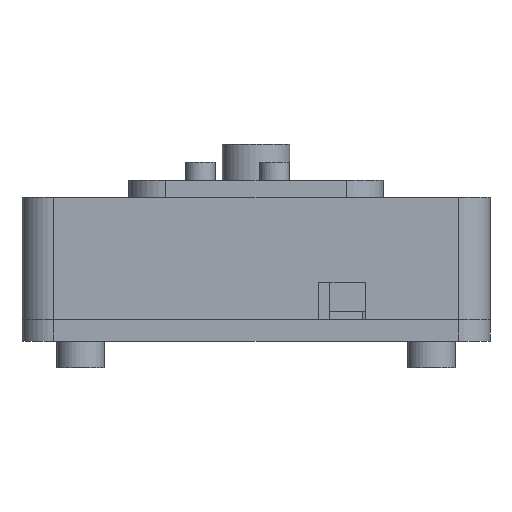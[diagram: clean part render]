
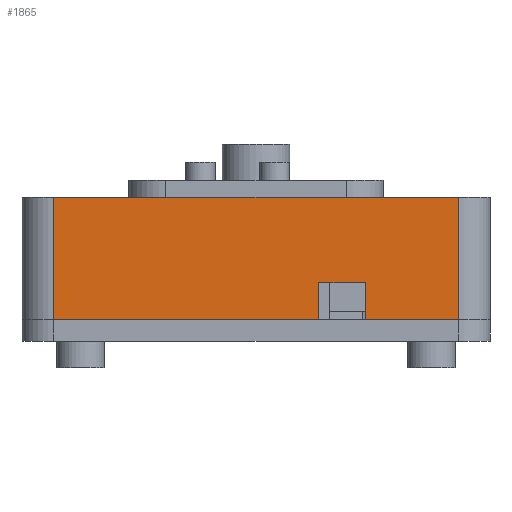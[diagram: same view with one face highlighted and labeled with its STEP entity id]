
A CAD part, front view. The second image highlights one B-rep face of the part: STEP entity #1865.
In plain terms, the highlighted planar face has unit normal (0, -1, 0).
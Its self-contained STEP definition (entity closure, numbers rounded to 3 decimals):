
#102 = PLANE('',#103);
#103 = AXIS2_PLACEMENT_3D('',#104,#105,#106);
#104 = CARTESIAN_POINT('',(-22.,-26.,-0.5));
#105 = DIRECTION('',(0.,0.,1.));
#106 = DIRECTION('',(1.,0.,0.));
#130 = CYLINDRICAL_SURFACE('',#131,3.);
#131 = AXIS2_PLACEMENT_3D('',#132,#133,#134);
#132 = CARTESIAN_POINT('',(-19.,-23.,-12.));
#133 = DIRECTION('',(0.,0.,1.));
#134 = DIRECTION('',(-1.,-0.,0.));
#158 = PLANE('',#159);
#159 = AXIS2_PLACEMENT_3D('',#160,#161,#162);
#160 = CARTESIAN_POINT('',(-22.,-26.,-12.));
#161 = DIRECTION('',(0.,0.,1.));
#162 = DIRECTION('',(1.,0.,0.));
#201 = VERTEX_POINT('',#202);
#202 = CARTESIAN_POINT('',(-19.,-26.,-0.5));
#224 = EDGE_CURVE('',#201,#225,#227,.T.);
#225 = VERTEX_POINT('',#226);
#226 = CARTESIAN_POINT('',(19.,-26.,-0.5));
#227 = SURFACE_CURVE('',#228,(#232,#239),.PCURVE_S1.);
#228 = LINE('',#229,#230);
#229 = CARTESIAN_POINT('',(-22.,-26.,-0.5));
#230 = VECTOR('',#231,1.);
#231 = DIRECTION('',(1.,0.,0.));
#232 = PCURVE('',#102,#233);
#233 = DEFINITIONAL_REPRESENTATION('',(#234),#238);
#234 = LINE('',#235,#236);
#235 = CARTESIAN_POINT('',(0.,0.));
#236 = VECTOR('',#237,1.);
#237 = DIRECTION('',(1.,0.));
#238 = ( GEOMETRIC_REPRESENTATION_CONTEXT(2) 
PARAMETRIC_REPRESENTATION_CONTEXT() REPRESENTATION_CONTEXT('2D SPACE',''
  ) );
#239 = PCURVE('',#240,#245);
#240 = PLANE('',#241);
#241 = AXIS2_PLACEMENT_3D('',#242,#243,#244);
#242 = CARTESIAN_POINT('',(-22.,-26.,-12.));
#243 = DIRECTION('',(0.,1.,0.));
#244 = DIRECTION('',(0.,0.,1.));
#245 = DEFINITIONAL_REPRESENTATION('',(#246),#250);
#246 = LINE('',#247,#248);
#247 = CARTESIAN_POINT('',(11.5,0.));
#248 = VECTOR('',#249,1.);
#249 = DIRECTION('',(0.,1.));
#250 = ( GEOMETRIC_REPRESENTATION_CONTEXT(2) 
PARAMETRIC_REPRESENTATION_CONTEXT() REPRESENTATION_CONTEXT('2D SPACE',''
  ) );
#273 = CYLINDRICAL_SURFACE('',#274,3.);
#274 = AXIS2_PLACEMENT_3D('',#275,#276,#277);
#275 = CARTESIAN_POINT('',(19.,-23.,-12.));
#276 = DIRECTION('',(0.,0.,1.));
#277 = DIRECTION('',(1.,0.,-0.));
#1076 = VERTEX_POINT('',#1077);
#1077 = CARTESIAN_POINT('',(-19.,-26.,-12.));
#1099 = EDGE_CURVE('',#1076,#201,#1100,.T.);
#1100 = SURFACE_CURVE('',#1101,(#1105,#1112),.PCURVE_S1.);
#1101 = LINE('',#1102,#1103);
#1102 = CARTESIAN_POINT('',(-19.,-26.,-12.));
#1103 = VECTOR('',#1104,1.);
#1104 = DIRECTION('',(0.,0.,1.));
#1105 = PCURVE('',#130,#1106);
#1106 = DEFINITIONAL_REPRESENTATION('',(#1107),#1111);
#1107 = LINE('',#1108,#1109);
#1108 = CARTESIAN_POINT('',(1.571,0.));
#1109 = VECTOR('',#1110,1.);
#1110 = DIRECTION('',(0.,1.));
#1111 = ( GEOMETRIC_REPRESENTATION_CONTEXT(2) 
PARAMETRIC_REPRESENTATION_CONTEXT() REPRESENTATION_CONTEXT('2D SPACE',''
  ) );
#1112 = PCURVE('',#240,#1113);
#1113 = DEFINITIONAL_REPRESENTATION('',(#1114),#1118);
#1114 = LINE('',#1115,#1116);
#1115 = CARTESIAN_POINT('',(0.,3.));
#1116 = VECTOR('',#1117,1.);
#1117 = DIRECTION('',(1.,0.));
#1118 = ( GEOMETRIC_REPRESENTATION_CONTEXT(2) 
PARAMETRIC_REPRESENTATION_CONTEXT() REPRESENTATION_CONTEXT('2D SPACE',''
  ) );
#1181 = EDGE_CURVE('',#1076,#1182,#1184,.T.);
#1182 = VERTEX_POINT('',#1183);
#1183 = CARTESIAN_POINT('',(5.9,-26.,-12.));
#1184 = SURFACE_CURVE('',#1185,(#1189,#1196),.PCURVE_S1.);
#1185 = LINE('',#1186,#1187);
#1186 = CARTESIAN_POINT('',(-22.,-26.,-12.));
#1187 = VECTOR('',#1188,1.);
#1188 = DIRECTION('',(1.,0.,0.));
#1189 = PCURVE('',#158,#1190);
#1190 = DEFINITIONAL_REPRESENTATION('',(#1191),#1195);
#1191 = LINE('',#1192,#1193);
#1192 = CARTESIAN_POINT('',(0.,0.));
#1193 = VECTOR('',#1194,1.);
#1194 = DIRECTION('',(1.,0.));
#1195 = ( GEOMETRIC_REPRESENTATION_CONTEXT(2) 
PARAMETRIC_REPRESENTATION_CONTEXT() REPRESENTATION_CONTEXT('2D SPACE',''
  ) );
#1196 = PCURVE('',#240,#1197);
#1197 = DEFINITIONAL_REPRESENTATION('',(#1198),#1202);
#1198 = LINE('',#1199,#1200);
#1199 = CARTESIAN_POINT('',(0.,0.));
#1200 = VECTOR('',#1201,1.);
#1201 = DIRECTION('',(0.,1.));
#1202 = ( GEOMETRIC_REPRESENTATION_CONTEXT(2) 
PARAMETRIC_REPRESENTATION_CONTEXT() REPRESENTATION_CONTEXT('2D SPACE',''
  ) );
#1219 = PLANE('',#1220);
#1220 = AXIS2_PLACEMENT_3D('',#1221,#1222,#1223);
#1221 = CARTESIAN_POINT('',(5.9,-28.,-12.1));
#1222 = DIRECTION('',(1.,0.,0.));
#1223 = DIRECTION('',(0.,0.,1.));
#1472 = VERTEX_POINT('',#1473);
#1473 = CARTESIAN_POINT('',(10.3,-26.,-12.));
#1486 = PLANE('',#1487);
#1487 = AXIS2_PLACEMENT_3D('',#1488,#1489,#1490);
#1488 = CARTESIAN_POINT('',(10.3,-28.,-12.1));
#1489 = DIRECTION('',(1.,0.,0.));
#1490 = DIRECTION('',(0.,0.,1.));
#1497 = EDGE_CURVE('',#1472,#1498,#1500,.T.);
#1498 = VERTEX_POINT('',#1499);
#1499 = CARTESIAN_POINT('',(19.,-26.,-12.));
#1500 = SURFACE_CURVE('',#1501,(#1505,#1512),.PCURVE_S1.);
#1501 = LINE('',#1502,#1503);
#1502 = CARTESIAN_POINT('',(-22.,-26.,-12.));
#1503 = VECTOR('',#1504,1.);
#1504 = DIRECTION('',(1.,0.,0.));
#1505 = PCURVE('',#158,#1506);
#1506 = DEFINITIONAL_REPRESENTATION('',(#1507),#1511);
#1507 = LINE('',#1508,#1509);
#1508 = CARTESIAN_POINT('',(0.,0.));
#1509 = VECTOR('',#1510,1.);
#1510 = DIRECTION('',(1.,0.));
#1511 = ( GEOMETRIC_REPRESENTATION_CONTEXT(2) 
PARAMETRIC_REPRESENTATION_CONTEXT() REPRESENTATION_CONTEXT('2D SPACE',''
  ) );
#1512 = PCURVE('',#240,#1513);
#1513 = DEFINITIONAL_REPRESENTATION('',(#1514),#1518);
#1514 = LINE('',#1515,#1516);
#1515 = CARTESIAN_POINT('',(0.,0.));
#1516 = VECTOR('',#1517,1.);
#1517 = DIRECTION('',(0.,1.));
#1518 = ( GEOMETRIC_REPRESENTATION_CONTEXT(2) 
PARAMETRIC_REPRESENTATION_CONTEXT() REPRESENTATION_CONTEXT('2D SPACE',''
  ) );
#1865 = ADVANCED_FACE('',(#1866),#240,.F.);
#1866 = FACE_BOUND('',#1867,.F.);
#1867 = EDGE_LOOP('',(#1868,#1869,#1870,#1871,#1892,#1893,#1914,#1940));
#1868 = ORIENTED_EDGE('',*,*,#1181,.F.);
#1869 = ORIENTED_EDGE('',*,*,#1099,.T.);
#1870 = ORIENTED_EDGE('',*,*,#224,.T.);
#1871 = ORIENTED_EDGE('',*,*,#1872,.F.);
#1872 = EDGE_CURVE('',#1498,#225,#1873,.T.);
#1873 = SURFACE_CURVE('',#1874,(#1878,#1885),.PCURVE_S1.);
#1874 = LINE('',#1875,#1876);
#1875 = CARTESIAN_POINT('',(19.,-26.,-12.));
#1876 = VECTOR('',#1877,1.);
#1877 = DIRECTION('',(0.,0.,1.));
#1878 = PCURVE('',#240,#1879);
#1879 = DEFINITIONAL_REPRESENTATION('',(#1880),#1884);
#1880 = LINE('',#1881,#1882);
#1881 = CARTESIAN_POINT('',(0.,41.));
#1882 = VECTOR('',#1883,1.);
#1883 = DIRECTION('',(1.,0.));
#1884 = ( GEOMETRIC_REPRESENTATION_CONTEXT(2) 
PARAMETRIC_REPRESENTATION_CONTEXT() REPRESENTATION_CONTEXT('2D SPACE',''
  ) );
#1885 = PCURVE('',#273,#1886);
#1886 = DEFINITIONAL_REPRESENTATION('',(#1887),#1891);
#1887 = LINE('',#1888,#1889);
#1888 = CARTESIAN_POINT('',(-1.571,0.));
#1889 = VECTOR('',#1890,1.);
#1890 = DIRECTION('',(-0.,1.));
#1891 = ( GEOMETRIC_REPRESENTATION_CONTEXT(2) 
PARAMETRIC_REPRESENTATION_CONTEXT() REPRESENTATION_CONTEXT('2D SPACE',''
  ) );
#1892 = ORIENTED_EDGE('',*,*,#1497,.F.);
#1893 = ORIENTED_EDGE('',*,*,#1894,.F.);
#1894 = EDGE_CURVE('',#1895,#1472,#1897,.T.);
#1895 = VERTEX_POINT('',#1896);
#1896 = CARTESIAN_POINT('',(10.3,-26.,-8.5));
#1897 = SURFACE_CURVE('',#1898,(#1902,#1908),.PCURVE_S1.);
#1898 = LINE('',#1899,#1900);
#1899 = CARTESIAN_POINT('',(10.3,-26.,-12.05));
#1900 = VECTOR('',#1901,1.);
#1901 = DIRECTION('',(0.,0.,-1.));
#1902 = PCURVE('',#240,#1903);
#1903 = DEFINITIONAL_REPRESENTATION('',(#1904),#1907);
#1904 = B_SPLINE_CURVE_WITH_KNOTS('',1,(#1905,#1906),.UNSPECIFIED.,.F.,
  .F.,(2,2),(-3.55,-0.05),.PIECEWISE_BEZIER_KNOTS.);
#1905 = CARTESIAN_POINT('',(3.5,32.3));
#1906 = CARTESIAN_POINT('',(0.,32.3));
#1907 = ( GEOMETRIC_REPRESENTATION_CONTEXT(2) 
PARAMETRIC_REPRESENTATION_CONTEXT() REPRESENTATION_CONTEXT('2D SPACE',''
  ) );
#1908 = PCURVE('',#1486,#1909);
#1909 = DEFINITIONAL_REPRESENTATION('',(#1910),#1913);
#1910 = B_SPLINE_CURVE_WITH_KNOTS('',1,(#1911,#1912),.UNSPECIFIED.,.F.,
  .F.,(2,2),(-3.55,-0.05),.PIECEWISE_BEZIER_KNOTS.);
#1911 = CARTESIAN_POINT('',(3.6,-2.));
#1912 = CARTESIAN_POINT('',(0.1,-2.));
#1913 = ( GEOMETRIC_REPRESENTATION_CONTEXT(2) 
PARAMETRIC_REPRESENTATION_CONTEXT() REPRESENTATION_CONTEXT('2D SPACE',''
  ) );
#1914 = ORIENTED_EDGE('',*,*,#1915,.F.);
#1915 = EDGE_CURVE('',#1916,#1895,#1918,.T.);
#1916 = VERTEX_POINT('',#1917);
#1917 = CARTESIAN_POINT('',(5.9,-26.,-8.5));
#1918 = SURFACE_CURVE('',#1919,(#1923,#1929),.PCURVE_S1.);
#1919 = LINE('',#1920,#1921);
#1920 = CARTESIAN_POINT('',(-8.05,-26.,-8.5));
#1921 = VECTOR('',#1922,1.);
#1922 = DIRECTION('',(1.,0.,0.));
#1923 = PCURVE('',#240,#1924);
#1924 = DEFINITIONAL_REPRESENTATION('',(#1925),#1928);
#1925 = B_SPLINE_CURVE_WITH_KNOTS('',1,(#1926,#1927),.UNSPECIFIED.,.F.,
  .F.,(2,2),(13.95,18.35),.PIECEWISE_BEZIER_KNOTS.);
#1926 = CARTESIAN_POINT('',(3.5,27.9));
#1927 = CARTESIAN_POINT('',(3.5,32.3));
#1928 = ( GEOMETRIC_REPRESENTATION_CONTEXT(2) 
PARAMETRIC_REPRESENTATION_CONTEXT() REPRESENTATION_CONTEXT('2D SPACE',''
  ) );
#1929 = PCURVE('',#1930,#1935);
#1930 = PLANE('',#1931);
#1931 = AXIS2_PLACEMENT_3D('',#1932,#1933,#1934);
#1932 = CARTESIAN_POINT('',(5.9,-28.,-8.5));
#1933 = DIRECTION('',(0.,0.,1.));
#1934 = DIRECTION('',(1.,0.,0.));
#1935 = DEFINITIONAL_REPRESENTATION('',(#1936),#1939);
#1936 = B_SPLINE_CURVE_WITH_KNOTS('',1,(#1937,#1938),.UNSPECIFIED.,.F.,
  .F.,(2,2),(13.95,18.35),.PIECEWISE_BEZIER_KNOTS.);
#1937 = CARTESIAN_POINT('',(0.,2.));
#1938 = CARTESIAN_POINT('',(4.4,2.));
#1939 = ( GEOMETRIC_REPRESENTATION_CONTEXT(2) 
PARAMETRIC_REPRESENTATION_CONTEXT() REPRESENTATION_CONTEXT('2D SPACE',''
  ) );
#1940 = ORIENTED_EDGE('',*,*,#1941,.T.);
#1941 = EDGE_CURVE('',#1916,#1182,#1942,.T.);
#1942 = SURFACE_CURVE('',#1943,(#1947,#1953),.PCURVE_S1.);
#1943 = LINE('',#1944,#1945);
#1944 = CARTESIAN_POINT('',(5.9,-26.,-12.05));
#1945 = VECTOR('',#1946,1.);
#1946 = DIRECTION('',(0.,0.,-1.));
#1947 = PCURVE('',#240,#1948);
#1948 = DEFINITIONAL_REPRESENTATION('',(#1949),#1952);
#1949 = B_SPLINE_CURVE_WITH_KNOTS('',1,(#1950,#1951),.UNSPECIFIED.,.F.,
  .F.,(2,2),(-3.55,-0.05),.PIECEWISE_BEZIER_KNOTS.);
#1950 = CARTESIAN_POINT('',(3.5,27.9));
#1951 = CARTESIAN_POINT('',(0.,27.9));
#1952 = ( GEOMETRIC_REPRESENTATION_CONTEXT(2) 
PARAMETRIC_REPRESENTATION_CONTEXT() REPRESENTATION_CONTEXT('2D SPACE',''
  ) );
#1953 = PCURVE('',#1219,#1954);
#1954 = DEFINITIONAL_REPRESENTATION('',(#1955),#1958);
#1955 = B_SPLINE_CURVE_WITH_KNOTS('',1,(#1956,#1957),.UNSPECIFIED.,.F.,
  .F.,(2,2),(-3.55,-0.05),.PIECEWISE_BEZIER_KNOTS.);
#1956 = CARTESIAN_POINT('',(3.6,-2.));
#1957 = CARTESIAN_POINT('',(0.1,-2.));
#1958 = ( GEOMETRIC_REPRESENTATION_CONTEXT(2) 
PARAMETRIC_REPRESENTATION_CONTEXT() REPRESENTATION_CONTEXT('2D SPACE',''
  ) );
